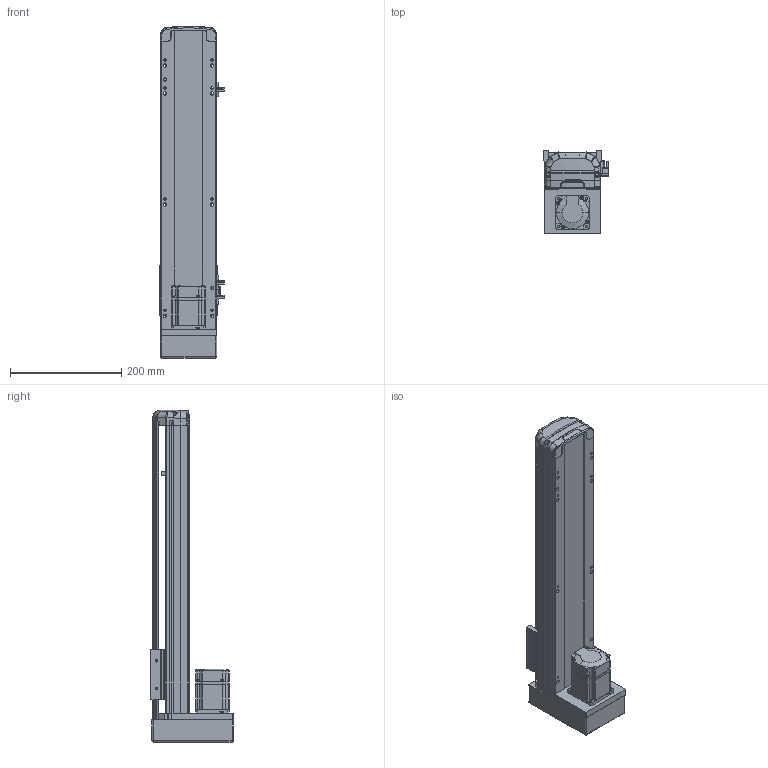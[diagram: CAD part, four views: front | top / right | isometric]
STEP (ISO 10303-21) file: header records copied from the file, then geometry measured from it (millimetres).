
FILE_DESCRIPTION (( 'STEP AP214' ), '1' );
FILE_NAME ('RTH10-XX-350-M-M20-C4.STEP', '2025-10-25T04:04:44', ( 'Microsoft' ), ( 'Microsoft' ), 'SwSTEP 2.0', 'SolidWorks 2018', '' );
FILE_SCHEMA (( 'AUTOMOTIVE_DESIGN' ));
Length unit declared in the file: millimetre
Products named in the file (10): N_RTH12-M-018-裔赽^RTH10-XX-XX-M-M20-C4; N_RTH12-M-007P-奻裔^RTH10-XX-XX-M-M20-C4; N_RTH12-GY-001P^RTH10-XX-XX-M-M20-C4; N_200W-1^RTH10-XX-XX-M-M20-C4; N_RTH13-L-012覜茼え俋离^RTH10-XX-XX-M-M20-C4; N_RTH12-M-008-萇儂啣^RTH10-XX-XX-M-M20-C4; RTH10-XX-350-M-M20-C4; N_RTH12-GY-004-賑釱^RTH10-XX-XX-M-M20-C4; N_RTH12-M-011P-臏倰第菁釱^RTH10-XX-XX-M-M20-C4; N_OMRON EE-SX672 传感器^RTH10-XX-XX-M-M20-C4
Assembly tree (11 placements, depth 2):
  RTH10-XX-350-M-M20-C4
    N_RTH12-M-011P-臏倰第菁釱^RTH10-XX-XX-M-M20-C4
    N_RTH13-L-012覜茼え俋离^RTH10-XX-XX-M-M20-C4
    N_OMRON EE-SX672 传感器^RTH10-XX-XX-M-M20-C4  x3
    N_200W-1^RTH10-XX-XX-M-M20-C4
    N_RTH12-M-007P-奻裔^RTH10-XX-XX-M-M20-C4
    N_RTH12-M-008-萇儂啣^RTH10-XX-XX-M-M20-C4
    N_RTH12-M-018-裔赽^RTH10-XX-XX-M-M20-C4
    N_RTH12-GY-004-賑釱^RTH10-XX-XX-M-M20-C4
    N_RTH12-GY-001P^RTH10-XX-XX-M-M20-C4
Bounding box: 116.5 x 149 x 597.31 mm (x, y, z)
Volume: 3157686.7 mm3; surface area: 475343.4 mm2
Topology: 10 solids, 12 shells, 1969 faces, 5482 edges, 3599 vertices
Faces by surface type: plane 987, cylinder 475, bspline 472, cone 29, sphere 4, torus 2
Entity records: 59120 total; most frequent: CARTESIAN_POINT 23227, ORIENTED_EDGE 8036, DIRECTION 6212, EDGE_CURVE 4024, VERTEX_POINT 2643, LINE 2172, VECTOR 2172, AXIS2_PLACEMENT_3D 2020
